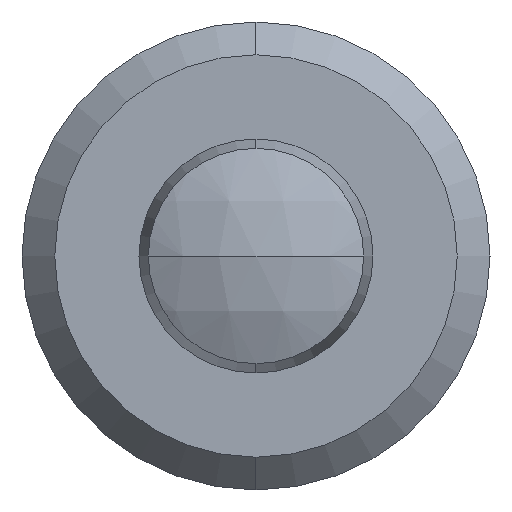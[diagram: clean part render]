
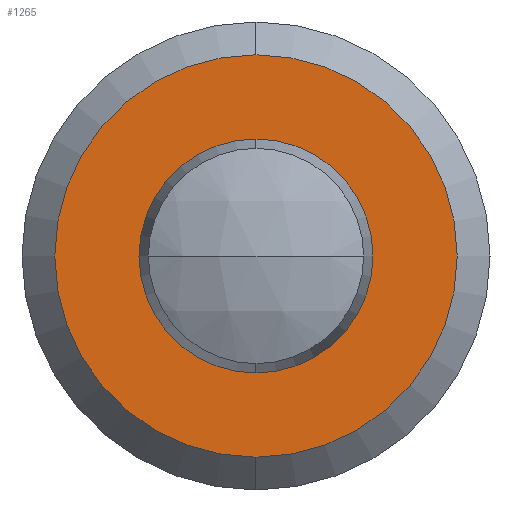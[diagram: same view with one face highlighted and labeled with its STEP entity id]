
A CAD part, left-side view. The second image highlights one B-rep face of the part: STEP entity #1265.
In plain terms, the highlighted planar face has unit normal (-1, 0, 0).
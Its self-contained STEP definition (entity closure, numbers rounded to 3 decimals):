
#29 = CIRCLE ( 'NONE', #821, 5. ) ;
#104 = CARTESIAN_POINT ( 'NONE',  ( 0., 5., 0. ) ) ;
#155 = DIRECTION ( 'NONE',  ( 0., 0., 1. ) ) ;
#254 = DIRECTION ( 'NONE',  ( 0., 0., 1. ) ) ;
#280 = DIRECTION ( 'NONE',  ( 1., 0., 0. ) ) ;
#344 = ORIENTED_EDGE ( 'NONE', *, *, #804, .T. ) ;
#367 = VERTEX_POINT ( 'NONE', #938 ) ;
#368 = FACE_BOUND ( 'NONE', #807, .T. ) ;
#372 = CARTESIAN_POINT ( 'NONE',  ( 0., 0., 0. ) ) ;
#388 = FACE_OUTER_BOUND ( 'NONE', #747, .T. ) ;
#420 = VERTEX_POINT ( 'NONE', #1272 ) ;
#438 = CIRCLE ( 'NONE', #1236, 5. ) ;
#464 = VERTEX_POINT ( 'NONE', #665 ) ;
#533 = DIRECTION ( 'NONE',  ( -1., 0., 0. ) ) ;
#536 = DIRECTION ( 'NONE',  ( 0., 0., 1. ) ) ;
#625 = DIRECTION ( 'NONE',  ( -1., 0., 0. ) ) ;
#642 = DIRECTION ( 'NONE',  ( 0., 0., 1. ) ) ;
#665 = CARTESIAN_POINT ( 'NONE',  ( 0., 0., 8.6 ) ) ;
#714 = DIRECTION ( 'NONE',  ( -1., 0., 0. ) ) ;
#747 = EDGE_LOOP ( 'NONE', ( #1166, #344 ) ) ;
#755 = CARTESIAN_POINT ( 'NONE',  ( 0., 0., 0. ) ) ;
#772 = AXIS2_PLACEMENT_3D ( 'NONE', #104, #280, #1185 ) ;
#801 = AXIS2_PLACEMENT_3D ( 'NONE', #755, #533, #642 ) ;
#804 = EDGE_CURVE ( 'NONE', #464, #1119, #1220, .T. ) ;
#807 = EDGE_LOOP ( 'NONE', ( #940, #1297 ) ) ;
#821 = AXIS2_PLACEMENT_3D ( 'NONE', #372, #714, #254 ) ;
#855 = CARTESIAN_POINT ( 'NONE',  ( 0., 0., 0. ) ) ;
#916 = DIRECTION ( 'NONE',  ( -1., 0., 0. ) ) ;
#938 = CARTESIAN_POINT ( 'NONE',  ( 0., 0., 5. ) ) ;
#940 = ORIENTED_EDGE ( 'NONE', *, *, #1352, .F. ) ;
#1069 = AXIS2_PLACEMENT_3D ( 'NONE', #1240, #916, #155 ) ;
#1114 = CIRCLE ( 'NONE', #1069, 8.6 ) ;
#1119 = VERTEX_POINT ( 'NONE', #1347 ) ;
#1125 = EDGE_CURVE ( 'NONE', #1119, #464, #1114, .T. ) ;
#1166 = ORIENTED_EDGE ( 'NONE', *, *, #1125, .T. ) ;
#1185 = DIRECTION ( 'NONE',  ( 0., 0., -1. ) ) ;
#1209 = EDGE_CURVE ( 'NONE', #420, #367, #29, .T. ) ;
#1220 = CIRCLE ( 'NONE', #801, 8.6 ) ;
#1230 = PLANE ( 'NONE',  #772 ) ;
#1236 = AXIS2_PLACEMENT_3D ( 'NONE', #855, #625, #536 ) ;
#1240 = CARTESIAN_POINT ( 'NONE',  ( 0., 0., 0. ) ) ;
#1265 = ADVANCED_FACE ( 'NONE', ( #368, #388 ), #1230, .F. ) ;
#1272 = CARTESIAN_POINT ( 'NONE',  ( 0., 0., -5. ) ) ;
#1297 = ORIENTED_EDGE ( 'NONE', *, *, #1209, .F. ) ;
#1347 = CARTESIAN_POINT ( 'NONE',  ( 0., 0., -8.6 ) ) ;
#1352 = EDGE_CURVE ( 'NONE', #367, #420, #438, .T. ) ;
